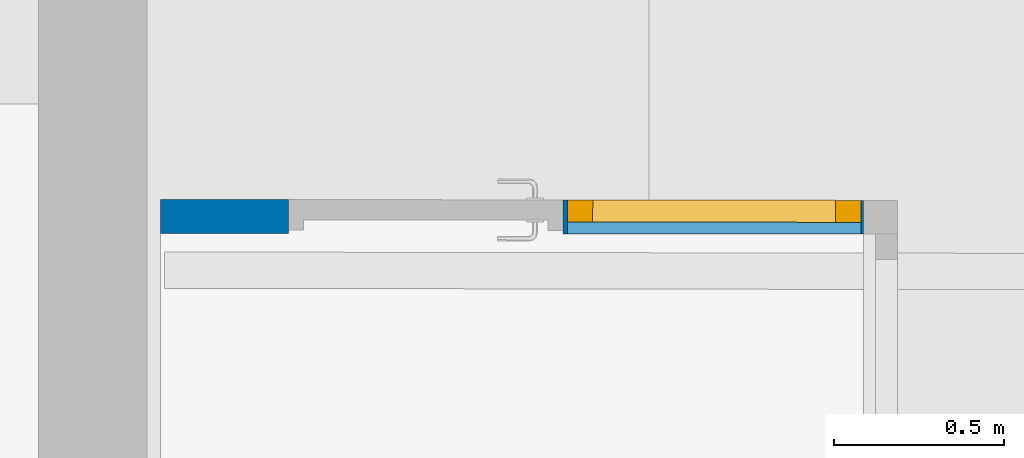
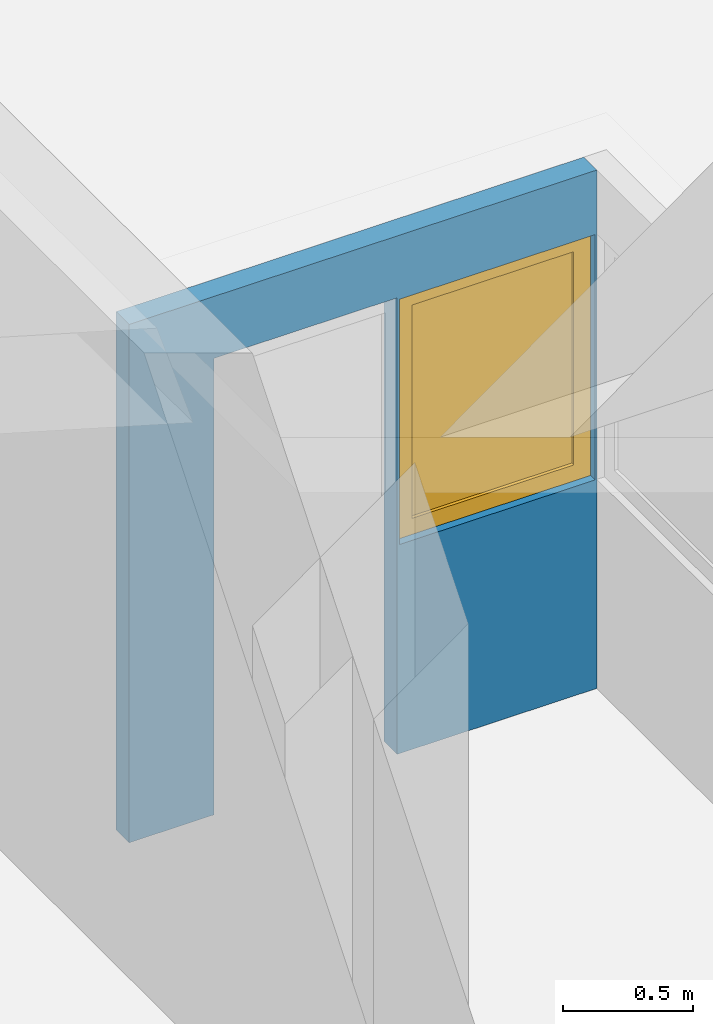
# One storey, part 135 of 301: 1 wall, 1 window, 2 openings.
"""IFC2X3 building model written with IfcOpenShell, lengths in millimetres."""

from ifc_helpers import new_model, entity, si_unit, converted_unit, derived_unit, money_unit, direction, frame, origin_with_axes, place, context, subcontext, project, spatial, open_shell, faceted_brep, surface_model, material, type_object, element, fill, save


model = new_model("IFC2X3")

# Units and contexts
model_context = context("Model", 3, precision=0.01, world=origin_with_axes(), true_north=direction((0.0, 1.0)))
body_context = subcontext(model_context, "Body", "Model", "MODEL_VIEW")
ifc_project = project(units=[si_unit("LENGTHUNIT", "METRE", prefix="MILLI"), si_unit("AREAUNIT", "SQUARE_METRE"), si_unit("VOLUMEUNIT", "CUBIC_METRE"), converted_unit("PLANEANGLEUNIT", "DEGREE", entity("IfcPlaneAngleMeasure", 0.0174532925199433), si_unit("PLANEANGLEUNIT", "RADIAN"), dimensions=[0, 0, 0, 0, 0, 0, 0]), money_unit("EUR"), converted_unit("TIMEUNIT", "Year", entity("IfcTimeMeasure", 31557600.0), si_unit("TIMEUNIT", "SECOND"), dimensions=[0, 0, 1, 0, 0, 0, 0]), si_unit("MASSUNIT", "GRAM", prefix="KILO"), si_unit("THERMODYNAMICTEMPERATUREUNIT", "DEGREE_CELSIUS"), si_unit("LUMINOUSINTENSITYUNIT", "LUMEN"), si_unit("ENERGYUNIT", "JOULE", prefix="MEGA"), derived_unit("THERMALCONDUCTANCEUNIT", [(si_unit("POWERUNIT", "WATT"), 1), (si_unit("LENGTHUNIT", "METRE"), -1), (si_unit("THERMODYNAMICTEMPERATUREUNIT", "KELVIN"), -1)]), derived_unit("SPECIFICHEATCAPACITYUNIT", [(si_unit("ENERGYUNIT", "JOULE"), 1), (si_unit("MASSUNIT", "GRAM", prefix="KILO"), -1), (si_unit("THERMODYNAMICTEMPERATUREUNIT", "KELVIN"), -1)]), derived_unit("MASSDENSITYUNIT", [(si_unit("MASSUNIT", "GRAM", prefix="KILO"), 1), (si_unit("VOLUMEUNIT", "CUBIC_METRE"), -1)])], contexts=[model_context])

# Site, building, storey
site_placement = place(None, frame((0.0, 0.0, 8650.0), z_axis=(0.0, 0.0, 1.0), x_axis=(1.0, 0.0, 0.0)))
site = spatial("IfcSite", under=ifc_project, at=site_placement, Name="43301:001:0844", CompositionType="ELEMENT")
building_placement = place(site_placement, origin_with_axes())
building = spatial("IfcBuilding", under=site, at=building_placement, Name="Kuressaare Ametikooli tuulikute mehaanikute õppekorpus", CompositionType="ELEMENT")
storey_placement = place(building_placement, origin_with_axes())
storey = spatial("IfcBuildingStorey", under=building, at=storey_placement, Name="1.korrus", CompositionType="ELEMENT", Elevation=0.0)

# Wall, openings, window
ifc_material = material(Name="GENEERILINE - KONSTRUKTRIOON")
wall_type = type_object("IfcWallType", Name="GENEERILINE - KONSTRUKTRIOON 100", PredefinedType="NOTDEFINED")
wall_placement = place(storey_placement, frame((87898.75644683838, 51852.49040638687, 130.0), z_axis=(0.0, 0.0, 1.0), x_axis=(0.9999991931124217, -0.001270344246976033, 0.0)))
wall = element("IfcWall", 1, at=wall_placement, inside=storey, type_object=wall_type, material=ifc_material, Name="SS-XX", context=body_context, shape_type="Brep", body=[
    faceted_brep([(1546.998800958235, 0.0, 2140.0), (736.9988009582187, 0.0, 2140.0), (736.9988009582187, 0.0, 0.0), (360.0002904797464, 0.0, 0.0), (360.0002904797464, 0.0, 2430.0), (2432.002084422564, 0.0, 2430.0), (2432.002084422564, 0.0, 0.0), (1546.998800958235, 0.0, 0.0), (1559.080548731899, 0.0, 980.0000000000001), (2424.995888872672, 0.0, 980.0000000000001), (2424.995888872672, 0.0, 2130.0), (1559.080548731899, 0.0, 2130.0), (736.9988009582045, -99.99999999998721, 2140.0), (1546.998800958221, -99.99999999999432, 2140.0), (736.9988009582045, -99.99999999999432, 0.0), (360.1273250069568, -100.0000000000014, 0.0), (360.1273250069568, -100.0000000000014, 2430.0), (2432.129118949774, -99.99999999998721, 2430.0), (2432.129118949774, -99.99999999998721, 0.0), (1546.998800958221, -99.99999999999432, 0.0), (1559.080548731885, -99.99999999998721, 980.0000000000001), (2424.995888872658, -99.99999999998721, 980.0000000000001), (2424.995888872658, -99.99999999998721, 2130.0), (1559.080548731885, -99.99999999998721, 2130.0)], [[[0, 1, 2, 3, 4, 5, 6, 7], [8, 9, 10, 11]], [[12, 1, 0, 13]], [[14, 2, 1, 12]], [[3, 2, 14, 15]], [[16, 4, 3, 15]], [[5, 4, 16, 17]], [[17, 18, 6, 5]], [[18, 19, 7, 6]], [[13, 0, 7, 19]], [[9, 8, 20, 21]], [[10, 9, 21, 22]], [[11, 10, 22, 23]], [[8, 11, 23, 20]], [[12, 13, 19, 18, 17, 16, 15, 14], [20, 23, 22, 21]]]),
])
opening_1_placement = place(wall_placement, frame((1992.038218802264, 0.0, 979.9999999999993), z_axis=(0.0, 0.0, 1.0), x_axis=(1.0, 0.0, 0.0)))
opening_1 = element("IfcOpeningElement", 2, at=opening_1_placement, cuts=wall, Name="SA-XX", context=body_context, shape_type="Brep", body=[
    faceted_brep([(-432.9576700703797, -104.2165117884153, 1150.0), (-432.9576700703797, -104.2165117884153, 0.0), (432.9576700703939, -104.2165117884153, 0.0), (432.9576700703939, -104.2165117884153, 1150.0), (-432.9576700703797, 4.216511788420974, 1150.0), (-432.9576700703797, 4.216511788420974, 0.0), (432.9576700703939, 4.216511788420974, 0.0), (432.9576700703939, 4.216511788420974, 1150.0)], [[[0, 1, 2, 3]], [[4, 5, 1, 0]], [[5, 6, 2, 1]], [[6, 7, 3, 2]], [[7, 4, 0, 3]], [[6, 5, 4, 7]]]),
])
opening_2_placement = place(wall_placement, frame((1141.998800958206, 0.0, 0.0), z_axis=(0.0, 0.0, 1.0), x_axis=(1.0, 0.0, 0.0)))
element("IfcOpeningElement", 3, at=opening_2_placement, cuts=wall, Name="SU-XX", context=body_context, shape_type="Brep", body=[
    faceted_brep([(-405.0000000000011, -104.2165117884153, 2140.0), (-405.0000000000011, -104.2165117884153, 0.0), (405.0000000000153, -104.2165117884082, 0.0), (405.0000000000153, -104.2165117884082, 2140.0), (-405.0000000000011, 4.216511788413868, 2140.0), (-405.0000000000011, 4.216511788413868, 0.0), (405.0000000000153, 4.216511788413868, 0.0), (405.0000000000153, 4.216511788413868, 2140.0)], [[[0, 1, 2, 3]], [[4, 5, 1, 0]], [[5, 6, 2, 1]], [[6, 7, 3, 2]], [[7, 4, 0, 3]], [[6, 5, 4, 7]]]),
])
window_style = type_object("IfcWindowStyle", Name="Window 27", ConstructionType="NOTDEFINED", OperationType="SINGLE_PANEL", ParameterTakesPrecedence=False, Sizeable=False)
window_placement = place(opening_1_placement, frame((432.9576700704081, 0.0, 0.0), z_axis=(0.0, 0.0, 1.0), x_axis=(-1.0, 0.0, 0.0)))
window = element("IfcWindow", 4, at=window_placement, inside=storey, type_object=window_style, Name="SA-XX", OverallHeight=1150.0, OverallWidth=865.915, context=body_context, shape_type="SurfaceModel", body=[
    faceted_brep([(74.99999999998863, 0.0, 1075.0), (74.99999999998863, 65.00000000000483, 1075.0), (0.0, 65.00000000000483, 1075.0), (0.0, 0.0, 1075.0), (74.99999999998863, 0.0, 74.99999999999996), (74.99999999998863, 65.00000000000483, 74.99999999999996), (0.0, 65.00000000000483, 74.99999999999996), (0.0, 0.0, 74.99999999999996)], [[[0, 1, 2, 3]], [[4, 5, 1, 0]], [[1, 5, 6, 2]], [[3, 2, 6, 7]], [[0, 3, 7, 4]], [[7, 6, 5, 4]]]),
    faceted_brep([(790.9153401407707, 0.0, 74.99999999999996), (790.9153401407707, 65.00000000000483, 74.99999999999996), (865.9153401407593, 65.00000000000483, 74.99999999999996), (865.9153401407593, 0.0, 74.99999999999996), (790.9153401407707, 0.0, 1075.0), (790.9153401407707, 65.00000000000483, 1075.0), (865.9153401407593, 65.00000000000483, 1075.0), (865.9153401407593, 0.0, 1075.0)], [[[0, 1, 2, 3]], [[4, 5, 1, 0]], [[1, 5, 6, 2]], [[3, 2, 6, 7]], [[0, 3, 7, 4]], [[7, 6, 5, 4]]]),
    faceted_brep([(74.99999999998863, 0.0, 74.99999999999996), (74.99999999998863, 65.00000000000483, 74.99999999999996), (0.0, 65.00000000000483, 74.99999999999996), (0.0, 0.0, 74.99999999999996), (790.9153401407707, 0.0, 74.99999999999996), (790.9153401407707, 65.00000000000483, 74.99999999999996), (865.9153401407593, 65.00000000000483, 74.99999999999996), (865.9153401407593, 65.00000000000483, 0.0), (0.0, 65.00000000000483, 0.0), (0.0, 0.0, 0.0), (865.9153401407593, 0.0, 0.0), (865.9153401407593, 0.0, 74.99999999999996)], [[[0, 1, 2, 3]], [[4, 5, 1, 0]], [[1, 5, 6, 7, 8, 2]], [[3, 2, 8, 9]], [[0, 3, 9, 10, 11, 4]], [[11, 6, 5, 4]], [[10, 7, 6, 11]], [[9, 8, 7, 10]]]),
    faceted_brep([(790.9153401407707, 0.0, 1075.0), (790.9153401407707, 65.00000000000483, 1075.0), (865.9153401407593, 65.00000000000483, 1075.0), (865.9153401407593, 0.0, 1075.0), (74.99999999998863, 0.0, 1075.0), (74.99999999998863, 65.00000000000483, 1075.0), (0.0, 65.00000000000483, 1075.0), (0.0, 65.00000000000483, 1150.0), (865.9153401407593, 65.00000000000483, 1150.0), (865.9153401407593, 0.0, 1150.0), (0.0, 0.0, 1150.0), (0.0, 0.0, 1075.0)], [[[0, 1, 2, 3]], [[4, 5, 1, 0]], [[1, 5, 6, 7, 8, 2]], [[3, 2, 8, 9]], [[0, 3, 9, 10, 11, 4]], [[11, 6, 5, 4]], [[10, 7, 6, 11]], [[9, 8, 7, 10]]]),
    surface_model("IfcShellBasedSurfaceModel", [(74.99999999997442, 30.00000000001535, 74.99999999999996), (790.9153401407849, 30.00000000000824, 74.99999999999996), (790.9153401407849, 30.00000000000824, 1075.0), (74.99999999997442, 30.00000000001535, 1075.0)], [open_shell([[[0, 1, 2, 3]]])]),
    surface_model("IfcShellBasedSurfaceModel", [(74.99999999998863, 50.00000000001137, 74.99999999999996), (74.99999999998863, 50.00000000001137, 1075.0), (790.9153401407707, 50.00000000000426, 1075.0), (790.9153401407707, 50.00000000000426, 74.99999999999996)], [open_shell([[[0, 1, 2, 3]]])]),
])
fill(opening_1, window)

save(model, "model.ifc")
